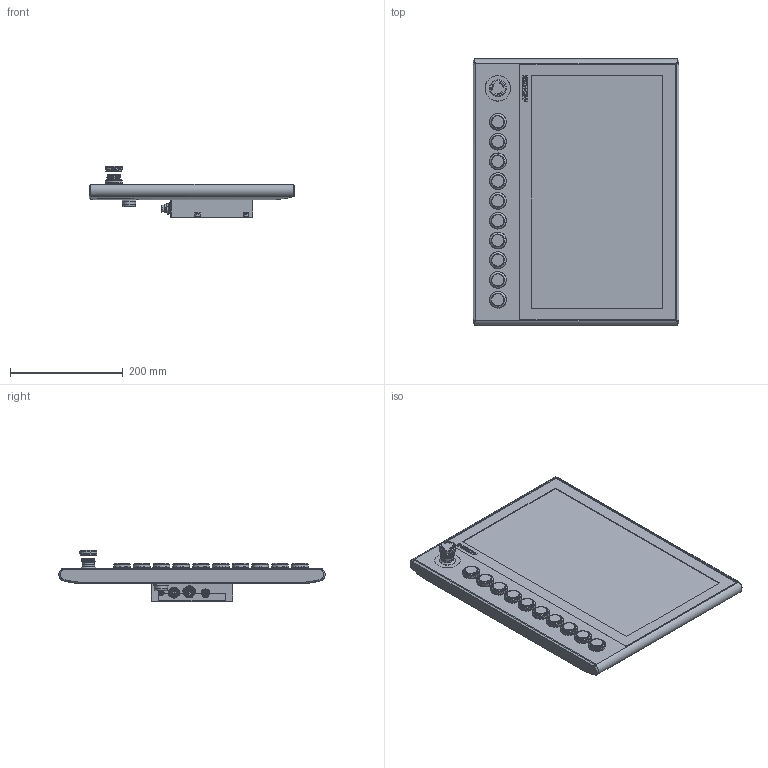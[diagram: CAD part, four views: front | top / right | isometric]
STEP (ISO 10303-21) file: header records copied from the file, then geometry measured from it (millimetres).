
FILE_DESCRIPTION(/* description */ (''),/* implementation_level */ '2;1');
FILE_NAME(/* name */ 'X:\0-inventor\0-3d-Teile\PC-Compo\solids\CP3xxx\0-Ausgabe\CP3918-G025-Step.stp',/* time_stamp */ '2019-07-10T14:13:57+02:00',/* author */ ('ChristianKreuzer'),/* organization */ ('Design-AG'),/* preprocessor_version */ 'ST-DEVELOPER v17.2',/* originating_system */ 'Autodesk Inventor 2019',/* authorisation */ '');
FILE_SCHEMA (('AUTOMOTIVE_DESIGN { 1 0 10303 214 3 1 1 }'));
Products named in the file (1): CP3918-IL-G025
Bounding box: 364.8 x 471.79 x 91.15 mm (x, y, z)
Volume: 5045331 mm3; surface area: 836815.4 mm2
Topology: 45 solids, 52 shells, 2113 faces, 5746 edges, 3864 vertices
Faces by surface type: plane 1113, cylinder 574, cone 168, torus 147, bspline 60, sphere 51
Full cylindrical faces by diameter (mm): 0.5 x8, 1 x23, 3 x8, 4 x2, 4.3 x1, 4.917 x4, 5.9 x1, 6 x9, 6.6 x1, 7.9 x1, 8 x1, 8.5 x4, 8.8 x4, 9 x3, 11 x2, 12 x1, 13.4 x1, 16.01 x1, 20 x1, 21.3 x1, 21.5 x1, 22.2 x1, 22.55 x3, 22.7 x10, 22.8 x1, 23.028 x10, 23.5 x1, 23.7 x10, 24.8 x10, 25 x1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
Entity records: 74039 total; most frequent: CARTESIAN_POINT 16878, DIRECTION 11862, ORIENTED_EDGE 11428, EDGE_CURVE 5714, AXIS2_PLACEMENT_3D 4469, VERTEX_POINT 3864, LINE 2924, VECTOR 2924
